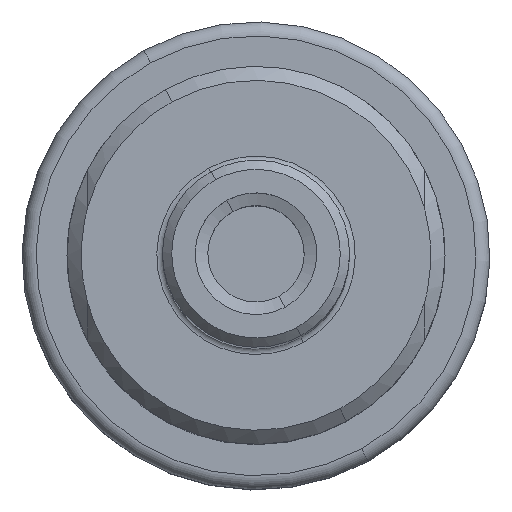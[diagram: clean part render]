
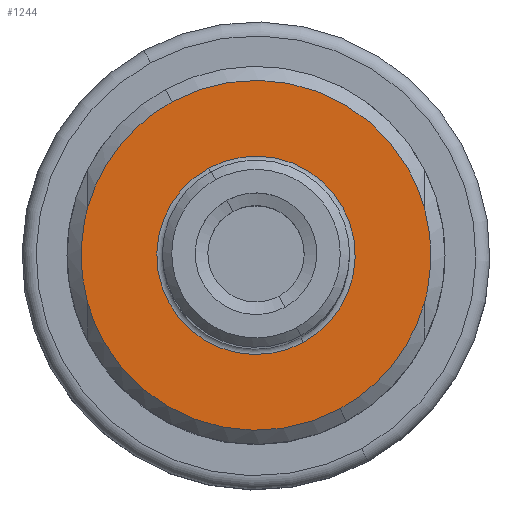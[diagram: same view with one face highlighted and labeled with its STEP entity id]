
A CAD part, top view. The second image highlights one B-rep face of the part: STEP entity #1244.
In plain terms, the highlighted planar face has unit normal (0, 0, 1).
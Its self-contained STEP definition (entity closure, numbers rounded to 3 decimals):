
#1097=AXIS2_PLACEMENT_3D('Circle Axis2P3D',#1095,#1096,$) ;
#1186=AXIS2_PLACEMENT_3D('Plane Axis2P3D',#1183,#1184,#1185) ;
#1228=AXIS2_PLACEMENT_3D('Circle Axis2P3D',#1226,#1227,$) ;
#1237=AXIS2_PLACEMENT_3D('Circle Axis2P3D',#1235,#1236,$) ;
#1056=CARTESIAN_POINT('Vertex',(-8.965,16.411,-100.)) ;
#1060=CARTESIAN_POINT('Control Point',(-8.965,16.411,-100.)) ;
#1061=CARTESIAN_POINT('Control Point',(-6.168,17.939,-100.)) ;
#1062=CARTESIAN_POINT('Control Point',(-3.046,18.871,-100.)) ;
#1063=CARTESIAN_POINT('Control Point',(0.231,19.114,-100.)) ;
#1064=CARTESIAN_POINT('Control Point',(7.031,18.14,-100.)) ;
#1065=CARTESIAN_POINT('Control Point',(12.791,14.335,-100.)) ;
#1066=CARTESIAN_POINT('Control Point',(15.283,11.642,-100.)) ;
#1067=CARTESIAN_POINT('Control Point',(17.043,8.468,-100.)) ;
#1068=CARTESIAN_POINT('Control Point',(18.,5.069,-100.)) ;
#1069=CARTESIAN_POINT('Vertex',(18.,5.069,-100.)) ;
#1087=CARTESIAN_POINT('Control Point',(18.,5.069,-100.)) ;
#1088=CARTESIAN_POINT('Control Point',(18.597,2.947,-100.)) ;
#1089=CARTESIAN_POINT('Control Point',(18.861,0.732,-100.)) ;
#1090=CARTESIAN_POINT('Control Point',(18.77,-1.497,-100.)) ;
#1091=CARTESIAN_POINT('Control Point',(18.339,-3.657,-100.)) ;
#1092=CARTESIAN_POINT('Vertex',(18.339,-3.657,-100.)) ;
#1095=CARTESIAN_POINT('Axis2P3D Location',(0.,0.,-100.)) ;
#1099=CARTESIAN_POINT('Vertex',(18.,-5.069,-100.)) ;
#1123=CARTESIAN_POINT('Control Point',(18.,-5.069,-100.)) ;
#1124=CARTESIAN_POINT('Control Point',(16.991,-8.652,-100.)) ;
#1125=CARTESIAN_POINT('Control Point',(15.028,-11.971,-100.)) ;
#1126=CARTESIAN_POINT('Control Point',(12.233,-14.626,-100.)) ;
#1127=CARTESIAN_POINT('Control Point',(8.965,-16.411,-100.)) ;
#1128=CARTESIAN_POINT('Vertex',(8.965,-16.411,-100.)) ;
#1156=CARTESIAN_POINT('Vertex',(-18.,-5.069,-100.)) ;
#1165=CARTESIAN_POINT('Control Point',(8.965,-16.411,-100.)) ;
#1166=CARTESIAN_POINT('Control Point',(6.168,-17.939,-100.)) ;
#1167=CARTESIAN_POINT('Control Point',(3.046,-18.871,-100.)) ;
#1168=CARTESIAN_POINT('Control Point',(-0.231,-19.114,-100.)) ;
#1169=CARTESIAN_POINT('Control Point',(-7.031,-18.14,-100.)) ;
#1170=CARTESIAN_POINT('Control Point',(-12.791,-14.335,-100.)) ;
#1171=CARTESIAN_POINT('Control Point',(-15.283,-11.642,-100.)) ;
#1172=CARTESIAN_POINT('Control Point',(-17.043,-8.468,-100.)) ;
#1173=CARTESIAN_POINT('Control Point',(-18.,-5.069,-100.)) ;
#1183=CARTESIAN_POINT('Axis2P3D Location',(0.,20.2,-100.)) ;
#1189=CARTESIAN_POINT('Control Point',(-18.,5.069,-100.)) ;
#1190=CARTESIAN_POINT('Control Point',(-17.193,7.936,-100.)) ;
#1191=CARTESIAN_POINT('Control Point',(-15.815,10.642,-100.)) ;
#1192=CARTESIAN_POINT('Control Point',(-13.909,13.034,-100.)) ;
#1193=CARTESIAN_POINT('Control Point',(-11.579,14.983,-100.)) ;
#1194=CARTESIAN_POINT('Control Point',(-8.965,16.411,-100.)) ;
#1195=CARTESIAN_POINT('Vertex',(-18.,5.069,-100.)) ;
#1199=CARTESIAN_POINT('Control Point',(-18.339,3.657,-100.)) ;
#1200=CARTESIAN_POINT('Control Point',(-18.282,3.942,-100.)) ;
#1201=CARTESIAN_POINT('Control Point',(-18.22,4.226,-100.)) ;
#1202=CARTESIAN_POINT('Control Point',(-18.152,4.508,-100.)) ;
#1203=CARTESIAN_POINT('Control Point',(-18.079,4.789,-100.)) ;
#1204=CARTESIAN_POINT('Control Point',(-18.,5.069,-100.)) ;
#1205=CARTESIAN_POINT('Vertex',(-18.339,3.657,-100.)) ;
#1209=CARTESIAN_POINT('Control Point',(-18.,-5.069,-100.)) ;
#1210=CARTESIAN_POINT('Control Point',(-18.478,-3.372,-100.)) ;
#1211=CARTESIAN_POINT('Control Point',(-18.756,-1.619,-100.)) ;
#1212=CARTESIAN_POINT('Control Point',(-18.825,0.159,-100.)) ;
#1213=CARTESIAN_POINT('Control Point',(-18.684,1.929,-100.)) ;
#1214=CARTESIAN_POINT('Control Point',(-18.339,3.657,-100.)) ;
#1226=CARTESIAN_POINT('Axis2P3D Location',(0.,0.,-100.)) ;
#1230=CARTESIAN_POINT('Vertex',(-5.082,9.302,-100.)) ;
#1232=CARTESIAN_POINT('Vertex',(5.082,-9.302,-100.)) ;
#1235=CARTESIAN_POINT('Axis2P3D Location',(0.,0.,-100.)) ;
#1096=DIRECTION('Axis2P3D Direction',(0.,0.,-1.)) ;
#1184=DIRECTION('Axis2P3D Direction',(0.,0.,1.)) ;
#1185=DIRECTION('Axis2P3D XDirection',(1.,0.,0.)) ;
#1227=DIRECTION('Axis2P3D Direction',(0.,0.,1.)) ;
#1236=DIRECTION('Axis2P3D Direction',(0.,0.,1.)) ;
#1217=ORIENTED_EDGE('',*,*,#1071,.F.) ;
#1218=ORIENTED_EDGE('',*,*,#1197,.F.) ;
#1219=ORIENTED_EDGE('',*,*,#1207,.F.) ;
#1220=ORIENTED_EDGE('',*,*,#1215,.F.) ;
#1221=ORIENTED_EDGE('',*,*,#1174,.F.) ;
#1222=ORIENTED_EDGE('',*,*,#1130,.F.) ;
#1223=ORIENTED_EDGE('',*,*,#1101,.F.) ;
#1224=ORIENTED_EDGE('',*,*,#1094,.F.) ;
#1241=ORIENTED_EDGE('',*,*,#1234,.F.) ;
#1242=ORIENTED_EDGE('',*,*,#1239,.F.) ;
#1243=FACE_BOUND('',#1240,.T.) ;
#1244=ADVANCED_FACE('NOCUT',(#1225,#1243),#1187,.T.) ;
#1059=B_SPLINE_CURVE_WITH_KNOTS('',5,(#1060,#1061,#1062,#1063,#1064,#1065,#1066,#1067,#1068),.UNSPECIFIED.,.F.,.U.,(6,3,6),(0.,86.693,182.765),.UNSPECIFIED.) ;
#1086=B_SPLINE_CURVE_WITH_KNOTS('',4,(#1087,#1088,#1089,#1090,#1091),.UNSPECIFIED.,.F.,.U.,(5,5),(182.765,230.716),.UNSPECIFIED.) ;
#1122=B_SPLINE_CURVE_WITH_KNOTS('',4,(#1123,#1124,#1125,#1126,#1127),.UNSPECIFIED.,.F.,.U.,(5,5),(47.951,128.97),.UNSPECIFIED.) ;
#1164=B_SPLINE_CURVE_WITH_KNOTS('',5,(#1165,#1166,#1167,#1168,#1169,#1170,#1171,#1172,#1173),.UNSPECIFIED.,.F.,.U.,(6,3,6),(0.,86.693,182.765),.UNSPECIFIED.) ;
#1188=B_SPLINE_CURVE_WITH_KNOTS('',5,(#1189,#1190,#1191,#1192,#1193,#1194),.UNSPECIFIED.,.F.,.U.,(6,6),(47.951,128.971),.UNSPECIFIED.) ;
#1198=B_SPLINE_CURVE_WITH_KNOTS('',5,(#1199,#1200,#1201,#1202,#1203,#1204),.UNSPECIFIED.,.F.,.U.,(6,6),(40.054,47.951),.UNSPECIFIED.) ;
#1208=B_SPLINE_CURVE_WITH_KNOTS('',5,(#1209,#1210,#1211,#1212,#1213,#1214),.UNSPECIFIED.,.F.,.U.,(6,6),(182.765,230.716),.UNSPECIFIED.) ;
#1098=CIRCLE('generated circle',#1097,18.7) ;
#1229=CIRCLE('generated circle',#1228,10.6) ;
#1238=CIRCLE('generated circle',#1237,10.6) ;
#1071=EDGE_CURVE('',#1057,#1070,#1059,.T.) ;
#1094=EDGE_CURVE('',#1070,#1093,#1086,.T.) ;
#1101=EDGE_CURVE('',#1093,#1100,#1098,.T.) ;
#1130=EDGE_CURVE('',#1100,#1129,#1122,.T.) ;
#1174=EDGE_CURVE('',#1129,#1157,#1164,.T.) ;
#1197=EDGE_CURVE('',#1196,#1057,#1188,.T.) ;
#1207=EDGE_CURVE('',#1206,#1196,#1198,.T.) ;
#1215=EDGE_CURVE('',#1157,#1206,#1208,.T.) ;
#1234=EDGE_CURVE('',#1231,#1233,#1229,.T.) ;
#1239=EDGE_CURVE('',#1233,#1231,#1238,.T.) ;
#1216=EDGE_LOOP('',(#1217,#1218,#1219,#1220,#1221,#1222,#1223,#1224)) ;
#1240=EDGE_LOOP('',(#1241,#1242)) ;
#1225=FACE_OUTER_BOUND('',#1216,.T.) ;
#1187=PLANE('',#1186) ;
#1057=VERTEX_POINT('',#1056) ;
#1070=VERTEX_POINT('',#1069) ;
#1093=VERTEX_POINT('',#1092) ;
#1100=VERTEX_POINT('',#1099) ;
#1129=VERTEX_POINT('',#1128) ;
#1157=VERTEX_POINT('',#1156) ;
#1196=VERTEX_POINT('',#1195) ;
#1206=VERTEX_POINT('',#1205) ;
#1231=VERTEX_POINT('',#1230) ;
#1233=VERTEX_POINT('',#1232) ;
